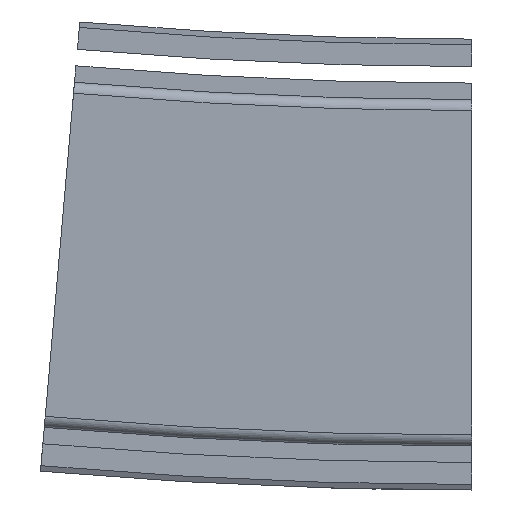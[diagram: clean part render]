
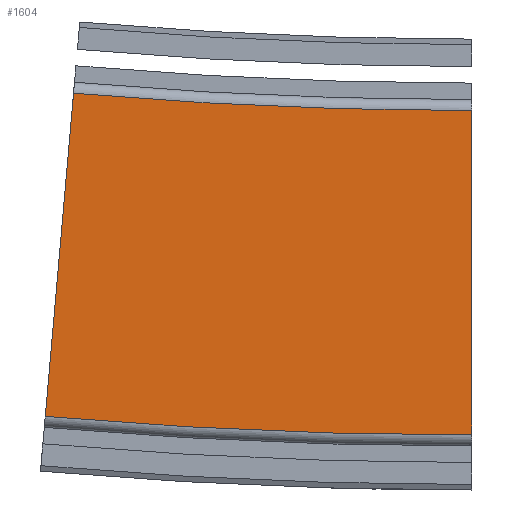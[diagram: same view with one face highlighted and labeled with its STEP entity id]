
A CAD part, front view. The second image highlights one B-rep face of the part: STEP entity #1604.
In plain terms, the highlighted planar face has unit normal (0, -1, 0).
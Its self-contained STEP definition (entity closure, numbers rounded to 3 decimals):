
#140=PLANE('',#1768);
#227=FACE_OUTER_BOUND('',#319,.T.);
#319=EDGE_LOOP('',(#1408,#1409,#1410,#1411));
#353=CIRCLE('',#1701,889.5);
#388=CIRCLE('',#1765,830.5);
#512=LINE('',#7343,#638);
#513=LINE('',#7344,#639);
#638=VECTOR('',#2170,10.);
#639=VECTOR('',#2171,10.);
#738=VERTEX_POINT('',#7162);
#740=VERTEX_POINT('',#7165);
#794=VERTEX_POINT('',#7331);
#795=VERTEX_POINT('',#7333);
#939=EDGE_CURVE('',#738,#740,#353,.T.);
#1024=EDGE_CURVE('',#794,#795,#388,.T.);
#1028=EDGE_CURVE('',#794,#738,#512,.T.);
#1029=EDGE_CURVE('',#740,#795,#513,.T.);
#1408=ORIENTED_EDGE('',*,*,#1028,.F.);
#1409=ORIENTED_EDGE('',*,*,#1024,.T.);
#1410=ORIENTED_EDGE('',*,*,#1029,.F.);
#1411=ORIENTED_EDGE('',*,*,#939,.F.);
#1604=ADVANCED_FACE('',(#227),#140,.T.);
#1701=AXIS2_PLACEMENT_3D('',#7166,#1982,#1983);
#1765=AXIS2_PLACEMENT_3D('',#7335,#2160,#2161);
#1768=AXIS2_PLACEMENT_3D('',#7342,#2168,#2169);
#1982=DIRECTION('center_axis',(0.,1.,0.));
#1983=DIRECTION('ref_axis',(0.,0.,
-1.));
#2160=DIRECTION('center_axis',(0.,1.,0.));
#2161=DIRECTION('ref_axis',(0.,0.,
-1.));
#2168=DIRECTION('center_axis',(0.,-1.,0.));
#2169=DIRECTION('ref_axis',(0.,0.,-1.));
#2170=DIRECTION('',(0.,0.,-1.));
#2171=DIRECTION('',(0.087,0.,0.996));
#7162=CARTESIAN_POINT('',(0.,-73.,-29.5));
#7165=CARTESIAN_POINT('',(-77.525,-73.,-26.115));
#7166=CARTESIAN_POINT('Origin',(0.,-73.,860.));
#7331=CARTESIAN_POINT('',(0.,-73.,29.5));
#7333=CARTESIAN_POINT('',(-72.383,-73.,32.66));
#7335=CARTESIAN_POINT('Origin',(0.,-73.,
860.));
#7342=CARTESIAN_POINT('Origin',(0.,-73.,-5.5));
#7343=CARTESIAN_POINT('',(0.,-73.,5.5));
#7344=CARTESIAN_POINT('',(-75.433,-73.,-2.207));
